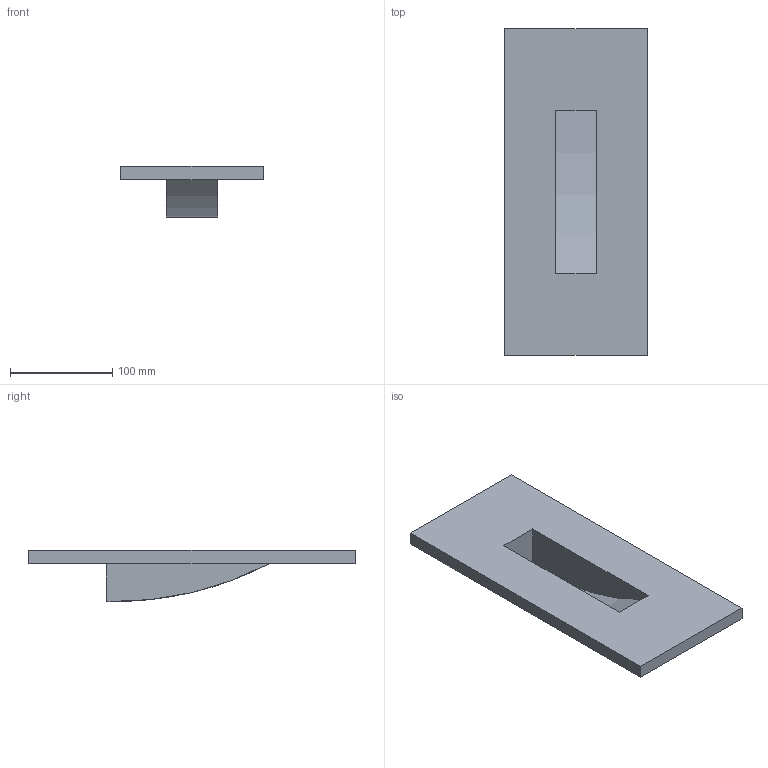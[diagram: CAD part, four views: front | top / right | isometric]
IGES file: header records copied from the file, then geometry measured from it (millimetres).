
Start section: SolidWorks IGES file using analytic representation for surfaces
Global section: file name: C:\Users\Stagiaire\Desktop\Rendu 3D\SLOT\1966 SLOT.IGS; native system: SolidWorks 2014; preprocessor: SolidWorks 2014; author: Stagiaire; date: 140912.112546; units: millimetre
Bounding box: 140 x 320 x 50 mm (x, y, z)
Surface area: 124513.4 mm2 (no closed solid volume)
Topology: 0 solids, 0 shells, 16 faces, 100 edges, 100 vertices
Faces by surface type: bspline 14, revolution 2
